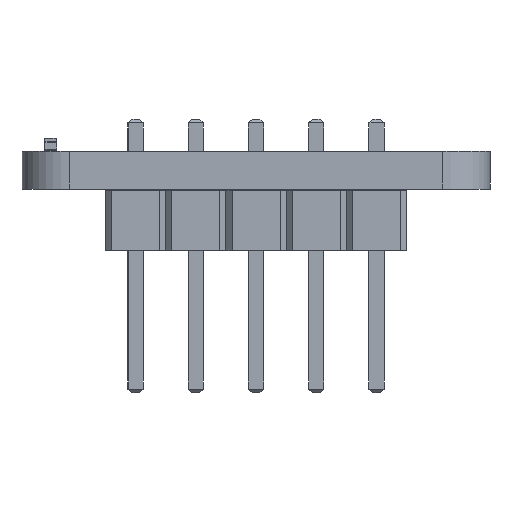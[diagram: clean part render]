
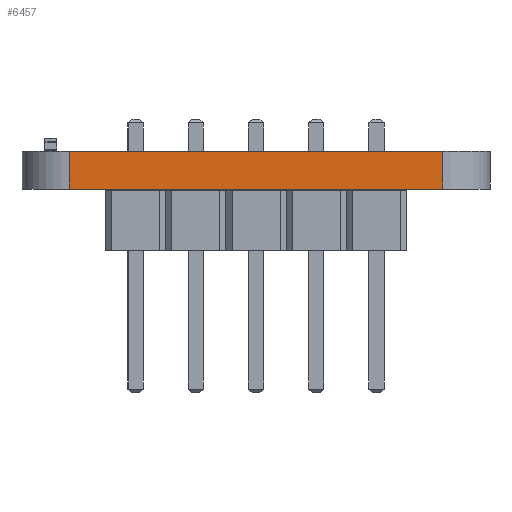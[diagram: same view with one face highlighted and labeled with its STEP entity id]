
A CAD part, front view. The second image highlights one B-rep face of the part: STEP entity #6457.
In plain terms, the highlighted planar face has unit normal (0, -1, 0).
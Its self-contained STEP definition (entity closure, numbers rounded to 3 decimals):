
#5908 = VERTEX_POINT('',#5909);
#5909 = CARTESIAN_POINT('',(171.068,-107.389,0.));
#5916 = EDGE_CURVE('',#5917,#5908,#5919,.T.);
#5917 = VERTEX_POINT('',#5918);
#5918 = CARTESIAN_POINT('',(186.827,-107.39,0.));
#5919 = LINE('',#5920,#5921);
#5920 = CARTESIAN_POINT('',(186.827,-107.39,0.));
#5921 = VECTOR('',#5922,1.);
#5922 = DIRECTION('',(-1.,0.,0.));
#6169 = VERTEX_POINT('',#6170);
#6170 = CARTESIAN_POINT('',(171.068,-107.389,1.6));
#6177 = EDGE_CURVE('',#6178,#6169,#6180,.T.);
#6178 = VERTEX_POINT('',#6179);
#6179 = CARTESIAN_POINT('',(186.827,-107.39,1.6));
#6180 = LINE('',#6181,#6182);
#6181 = CARTESIAN_POINT('',(186.827,-107.39,1.6));
#6182 = VECTOR('',#6183,1.);
#6183 = DIRECTION('',(-1.,0.,0.));
#6429 = EDGE_CURVE('',#5917,#6178,#6430,.T.);
#6430 = LINE('',#6431,#6432);
#6431 = CARTESIAN_POINT('',(186.827,-107.39,0.));
#6432 = VECTOR('',#6433,1.);
#6433 = DIRECTION('',(0.,0.,1.));
#6457 = ADVANCED_FACE('',(#6458),#6469,.T.);
#6458 = FACE_BOUND('',#6459,.T.);
#6459 = EDGE_LOOP('',(#6460,#6461,#6462,#6468));
#6460 = ORIENTED_EDGE('',*,*,#6429,.T.);
#6461 = ORIENTED_EDGE('',*,*,#6177,.T.);
#6462 = ORIENTED_EDGE('',*,*,#6463,.F.);
#6463 = EDGE_CURVE('',#5908,#6169,#6464,.T.);
#6464 = LINE('',#6465,#6466);
#6465 = CARTESIAN_POINT('',(171.068,-107.389,0.));
#6466 = VECTOR('',#6467,1.);
#6467 = DIRECTION('',(0.,0.,1.));
#6468 = ORIENTED_EDGE('',*,*,#5916,.F.);
#6469 = PLANE('',#6470);
#6470 = AXIS2_PLACEMENT_3D('',#6471,#6472,#6473);
#6471 = CARTESIAN_POINT('',(186.827,-107.39,0.));
#6472 = DIRECTION('',(0.,-1.,0.));
#6473 = DIRECTION('',(-1.,0.,0.));
